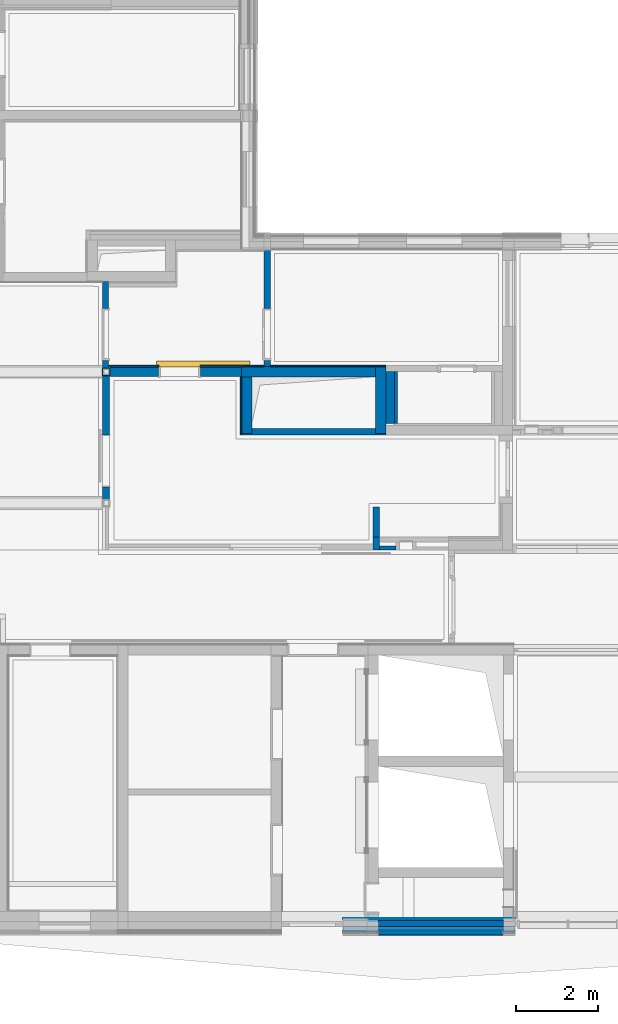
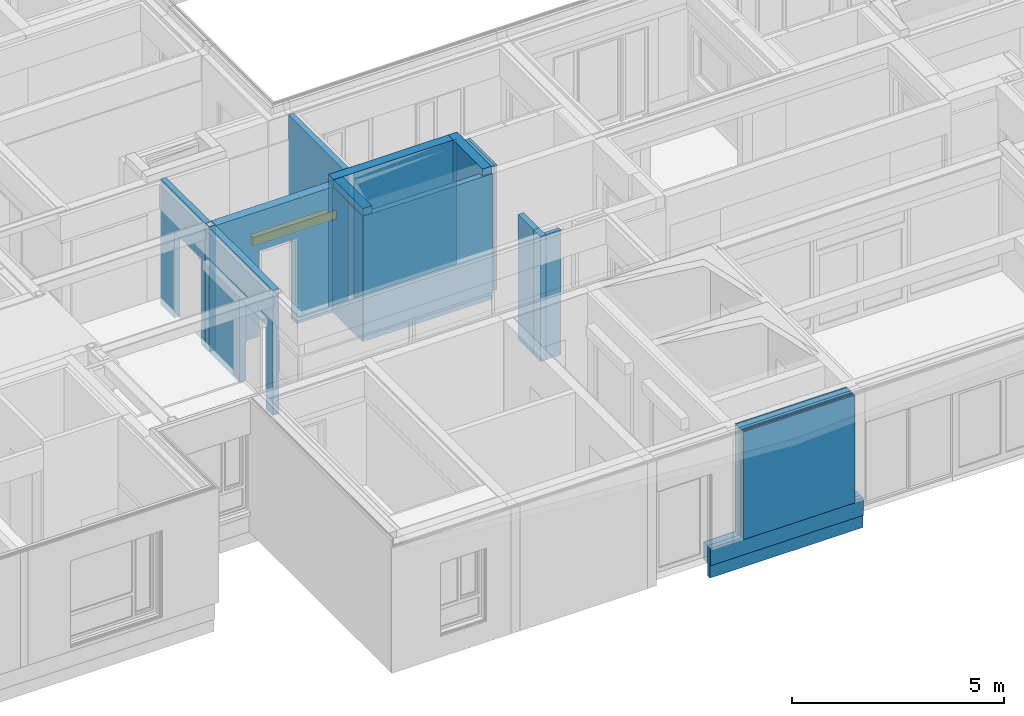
# One storey, part 24 of 207: 32 walls, 1 door, 5 openings.
"""IFC4 building model written with IfcOpenShell, lengths in metres."""

from ifc_helpers import new_model, entity, si_unit, converted_unit, derived_unit, frame, frame_2d, origin, origin_with_axes, place, context, subcontext, project, spatial, polyline, rectangle, outline, extrude, faceted_brep, source, transform, mapped, material, type_object, element, fill, save


model = new_model("IFC4")

# Units and contexts
model_context = context("Model", 3, precision=1e-05, world=origin())
body_context = subcontext(model_context, "Body", "Model", "MODEL_VIEW")
ifc_project = project(units=[si_unit("LENGTHUNIT", "METRE"), si_unit("AREAUNIT", "SQUARE_METRE"), si_unit("VOLUMEUNIT", "CUBIC_METRE"), si_unit("MASSUNIT", "GRAM", prefix="KILO"), converted_unit("PLANEANGLEUNIT", "DEGREE", entity("IfcPlaneAngleMeasure", 0.0174532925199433), si_unit("PLANEANGLEUNIT", "RADIAN"), dimensions=[0, 0, 0, 0, 0, 0, 0]), derived_unit("THERMALTRANSMITTANCEUNIT", [(si_unit("POWERUNIT", "WATT"), 1), (si_unit("THERMODYNAMICTEMPERATUREUNIT", "KELVIN"), -1), (si_unit("LENGTHUNIT", "METRE"), -2)]), derived_unit("VOLUMETRICFLOWRATEUNIT", [(si_unit("LENGTHUNIT", "METRE"), 3), (converted_unit("TIMEUNIT", "hour", entity("IfcTimeMeasure", 3600.0), si_unit("TIMEUNIT", "SECOND"), dimensions=[0, 0, 1, 0, 0, 0, 0]), -1), (si_unit("LENGTHUNIT", "METRE"), -1)])], contexts=[model_context])

# Site, building, storey
site_placement = place(None, origin())
site = spatial("IfcSite", under=ifc_project, at=site_placement, Name="Psychiatrie Neubau Wunstorf", CompositionType="ELEMENT")
building_placement = place(site_placement, origin())
building = spatial("IfcBuilding", under=site, at=building_placement, Name="Neubau H2 Stationsgebäude", CompositionType="ELEMENT")
storey_placement = place(building_placement, frame((0.0, 0.0, -0.2)))
storey = spatial("IfcBuildingStorey", under=building, at=storey_placement, Name="H2 Ebene 0", CompositionType="ELEMENT", Elevation=-0.2)

# Walls
ifc_material_1 = material(Name="WA-LB")
wall_1_placement = place(storey_placement, frame((50.3000000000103, -6.1210003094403, 0.5), z_axis=(0.0, 0.0, 1.0), x_axis=(-1.0, 0.0, 0.0)))
element("IfcWall", 1, at=wall_1_placement, inside=storey, material=ifc_material_1, context=body_context, shape_type="SweptSolid", body=[
    extrude(rectangle(XDim=3.0299951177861, YDim=0.036, at=frame_2d((1.51499755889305, 0.018), x_axis=(1.0, 0.0))), origin_with_axes(), (0.0, 0.0, 1.0), 3.1),
])
ifc_material_2 = material(Name="WA-HD")
wall_2_placement = place(storey_placement, frame((50.3000000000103, -6.1570003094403, 0.5), z_axis=(0.0, 0.0, 1.0), x_axis=(-1.0, 0.0, 0.0)))
element("IfcWall", 2, at=wall_2_placement, inside=storey, material=ifc_material_2, context=body_context, shape_type="SweptSolid", body=[
    extrude(rectangle(XDim=3.0299951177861, YDim=0.16, at=frame_2d((1.51499755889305, 0.08), x_axis=(1.0, 0.0))), origin_with_axes(), (0.0, 0.0, 1.0), 3.1),
])
ifc_material_3 = material(Name="WA-DL")
wall_3_placement = place(storey_placement, frame((50.3000000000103, -6.3170003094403, 0.5), z_axis=(0.0, 0.0, 1.0), x_axis=(-1.0, 0.0, 0.0)))
element("IfcWall", 3, at=wall_3_placement, inside=storey, material=ifc_material_3, context=body_context, shape_type="SweptSolid", body=[
    extrude(rectangle(XDim=3.0299951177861, YDim=0.08, at=frame_2d((1.51499755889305, 0.04), x_axis=(1.0, 0.0))), origin_with_axes(), (0.0, 0.0, 1.0), 3.1),
])
ifc_material_4 = material(Name="WA-TP")
wall_4_placement = place(storey_placement, frame((50.3000000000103, -6.3970003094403, 0.5), z_axis=(0.0, 0.0, 1.0), x_axis=(-1.0, 0.0, 0.0)))
element("IfcWall", 4, at=wall_4_placement, inside=storey, material=ifc_material_4, context=body_context, shape_type="SweptSolid", body=[
    extrude(rectangle(XDim=3.0299951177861, YDim=0.036, at=frame_2d((1.51499755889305, 0.018), x_axis=(1.0, 0.0))), origin_with_axes(), (0.0, 0.0, 1.0), 3.1),
])
ifc_material_5 = material(Name="WA-KL")
wall_5_placement = place(storey_placement, frame((50.3000000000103, -6.4330003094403, 0.5), z_axis=(0.0, 0.0, 1.0), x_axis=(-1.0, 0.0, 0.0)))
element("IfcWall", 5, at=wall_5_placement, inside=storey, material=ifc_material_5, context=body_context, shape_type="SweptSolid", body=[
    extrude(rectangle(XDim=3.0299951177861, YDim=0.024, at=frame_2d((1.51499755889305, 0.012), x_axis=(1.0, 0.0))), origin_with_axes(), (0.0, 0.0, 1.0), 3.1),
])
ifc_material_6 = material(Name="WA-TL")
wall_6_placement = place(storey_placement, frame((50.3000000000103, -6.4570003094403, 0.5), z_axis=(0.0, 0.0, 1.0), x_axis=(-1.0, 0.0, 0.0)))
element("IfcWall", 6, at=wall_6_placement, inside=storey, material=ifc_material_6, context=body_context, shape_type="SweptSolid", body=[
    extrude(rectangle(XDim=3.0299951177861, YDim=0.024, at=frame_2d((1.51499755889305, 0.012), x_axis=(1.0, 0.0))), origin_with_axes(), (0.0, 0.0, 1.0), 3.1),
])
ifc_material_7 = material(Name="WA-HS")
wall_7_placement = place(storey_placement, frame((50.3000000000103, -6.4810003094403, 0.5), z_axis=(0.0, 0.0, 1.0), x_axis=(-1.0, 0.0, 0.0)))
element("IfcWall", 7, at=wall_7_placement, inside=storey, material=ifc_material_7, context=body_context, shape_type="SweptSolid", body=[
    extrude(rectangle(XDim=3.0299951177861, YDim=0.042, at=frame_2d((1.51499755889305, 0.021), x_axis=(1.0, 0.0))), origin_with_axes(), (0.0, 0.0, 1.0), 3.1),
])
ifc_material_8 = material(Name="WA-LB")
wall_8_placement = place(storey_placement, frame((50.5799996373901, -6.1140003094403, 0.0), z_axis=(0.0, 0.0, 1.0), x_axis=(-1.0, 8.73680557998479e-16, 0.0)))
element("IfcWall", 8, at=wall_8_placement, inside=storey, material=ifc_material_8, context=body_context, shape_type="SweptSolid", body=[
    extrude(rectangle(XDim=4.16396905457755, YDim=0.021, at=frame_2d((2.08198452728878, 0.0105), x_axis=(1.0, 0.0))), origin_with_axes(), (0.0, 0.0, 1.0), 0.5),
])
ifc_material_9 = material(Name="WA-STB")
wall_9_placement = place(storey_placement, frame((50.5799996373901, -6.1350003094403, 0.0), z_axis=(0.0, 0.0, 1.0), x_axis=(-1.0, 8.73680557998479e-16, 0.0)))
element("IfcWall", 9, at=wall_9_placement, inside=storey, material=ifc_material_9, context=body_context, shape_type="SweptSolid", body=[
    extrude(rectangle(XDim=4.16396905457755, YDim=0.174999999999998, at=frame_2d((2.08198452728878, 0.0874999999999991), x_axis=(1.0, 0.0))), origin_with_axes(), (0.0, 0.0, 1.0), 0.5),
])
ifc_material_10 = material(Name="WA-DE")
wall_10_placement = place(storey_placement, frame((50.5799996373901, -6.3100003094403, -0.36), z_axis=(0.0, 0.0, 1.0), x_axis=(-1.0, 8.73680557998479e-16, 0.0)))
element("IfcWall", 10, at=wall_10_placement, inside=storey, material=ifc_material_10, context=body_context, shape_type="SweptSolid", body=[
    extrude(rectangle(XDim=4.16396905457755, YDim=0.12, at=frame_2d((2.08198452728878, 0.06), x_axis=(1.0, 0.0))), origin_with_axes(), (0.0, 0.0, 1.0), 0.86),
])
ifc_material_11 = material(Name="WA-LB")
wall_11_placement = place(storey_placement, frame((50.5799996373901, -6.4300003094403, 0.0), z_axis=(0.0, 0.0, 1.0), x_axis=(-1.0, 8.73680557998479e-16, 0.0)))
element("IfcWall", 11, at=wall_11_placement, inside=storey, material=ifc_material_11, context=body_context, shape_type="SweptSolid", body=[
    extrude(rectangle(XDim=4.16396905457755, YDim=0.015, at=frame_2d((2.08198452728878, 0.0075), x_axis=(1.0, 0.0))), origin_with_axes(), (0.0, 0.0, 1.0), 0.5),
])
ifc_material_12 = material(Name="WI-LB")
wall_12_placement = place(storey_placement, frame((43.9500000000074, 5.61750021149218, 0.0)))
element("IfcWall", 12, at=wall_12_placement, inside=storey, material=ifc_material_12, context=body_context, shape_type="SweptSolid", body=[
    extrude(outline(polyline([(0.0, 0.0), (3.5, 0.0), (3.5, 0.03), (3.25, 0.03), (3.25, 0.15), (0.25, 0.15), (0.25, 0.03), (0.0, 0.03), (0.0, 0.0)])), origin_with_axes(), (0.0, 0.0, 1.0), 3.6),
])
ifc_material_13 = material(Name="Installationsraum")
wall_13_placement = place(storey_placement, frame((47.45, 7.14999969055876, 0.0), z_axis=(0.0, 0.0, 1.0), x_axis=(5.91081608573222e-12, -1.0, 0.0)))
element("IfcWall", 13, at=wall_13_placement, inside=storey, material=ifc_material_13, context=body_context, shape_type="SweptSolid", body=[
    extrude(rectangle(XDim=1.26049947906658, YDim=0.21, at=frame_2d((0.63024973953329, 0.105), x_axis=(1.0, 0.0))), origin_with_axes(), (0.0, 0.0, 1.0), 3.6),
])
ifc_material_14 = material(Name="WI-VS")
wall_14_placement = place(storey_placement, frame((47.66, 7.14999969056, 0.0), z_axis=(0.0, 0.0, 1.0), x_axis=(5.91081608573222e-12, -1.0, 0.0)))
element("IfcWall", 14, at=wall_14_placement, inside=storey, material=ifc_material_14, context=body_context, shape_type="SweptSolid", body=[
    extrude(rectangle(XDim=1.26049947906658, YDim=0.075, at=frame_2d((0.63024973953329, 0.0375), x_axis=(1.0, 0.0))), origin_with_axes(), (0.0, 0.0, 1.0), 3.6),
])
ifc_material_15 = material(Name="WI-STB")
wall_15_placement = place(storey_placement, frame((43.9500000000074, 7.02499969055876, 0.0), z_axis=(0.0, 0.0, 1.0), x_axis=(0.0, -1.0, 0.0)))
element("IfcWall", 15, at=wall_15_placement, inside=storey, material=ifc_material_15, context=body_context, shape_type="SweptSolid", body=[
    extrude(rectangle(XDim=1.37749947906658, YDim=0.25, at=frame_2d((0.68874973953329, 0.125), x_axis=(1.0, 0.0))), origin_with_axes(), (0.0, 0.0, 1.0), 3.8),
])
ifc_material_16 = material(Name="WI-STB")
wall_16_placement = place(storey_placement, frame((43.9500000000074, 7.02499969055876, 0.0)))
element("IfcWall", 16, at=wall_16_placement, inside=storey, material=ifc_material_16, context=body_context, shape_type="SweptSolid", body=[
    extrude(rectangle(XDim=3.25, YDim=0.25, at=frame_2d((1.625, 0.125), x_axis=(1.0, 0.0))), origin_with_axes(), (0.0, 0.0, 1.0), 3.8),
])
ifc_material_17 = material(Name="WI-STB")
wall_17_placement = place(storey_placement, frame((47.2000000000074, 7.27499969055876, 0.0), z_axis=(0.0, 0.0, 1.0), x_axis=(0.0, -1.0, 0.0)))
element("IfcWall", 17, at=wall_17_placement, inside=storey, material=ifc_material_17, context=body_context, shape_type="SweptSolid", body=[
    extrude(rectangle(XDim=1.62749947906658, YDim=0.25, at=frame_2d((0.81374973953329, 0.125), x_axis=(1.0, 0.0))), origin_with_axes(), (0.0, 0.0, 1.0), 3.8),
])

# Wall, opening
ifc_material_18 = material(Name="WI-LB")
wall_18_placement = place(storey_placement, frame((44.65, 7.27499969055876, 0.0), z_axis=(0.0, 0.0, 1.0), x_axis=(0.0, 1.0, 0.0)))
wall_18 = element("IfcWall", 18, at=wall_18_placement, inside=storey, material=ifc_material_18, context=body_context, shape_type="SweptSolid", body=[
    extrude(rectangle(XDim=2.83900000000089, YDim=0.15, at=frame_2d((1.41950000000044, 0.075), x_axis=(1.0, 0.0))), origin_with_axes(), (0.0, 0.0, 1.0), 3.6),
])
opening_1_placement = place(wall_18_placement, frame((0.15, 0.0, 0.0), z_axis=(0.0, 1.0, 0.0), x_axis=(0.0, 0.0, 1.0)))
element("IfcOpeningElement", 19, at=opening_1_placement, cuts=wall_18, Name="Türöffnung", ObjectType="Opening", context=body_context, shape_type="SweptSolid", body=[
    extrude(outline(polyline([(2.46, 1.26), (2.46, 0.0), (0.0, 0.0), (0.0, 1.26), (2.46, 1.26)])), origin_with_axes(), (0.0, 0.0, 1.0), 0.15),
])

# Walls
ifc_material_19 = material(Name="WI-LB")
wall_19_placement = place(storey_placement, frame((43.9500000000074, 5.61750021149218, 0.0), z_axis=(0.0, 0.0, 1.0), x_axis=(0.0, 1.0, 0.0)))
element("IfcWall", 20, at=wall_19_placement, inside=storey, material=ifc_material_19, context=body_context, shape_type="SweptSolid", body=[
    extrude(rectangle(XDim=1.41049947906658, YDim=0.0299996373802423, at=frame_2d((0.70524973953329, 0.0149998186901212), x_axis=(1.0, 0.0))), origin_with_axes(), (0.0, 0.0, 1.0), 3.6),
])
ifc_material_20 = material(Name="WI-LB")
wall_20_placement = place(storey_placement, frame((43.9500000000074, 7.27499969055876, 0.0)))
element("IfcWall", 21, at=wall_20_placement, inside=storey, material=ifc_material_20, context=body_context, shape_type="SweptSolid", body=[
    extrude(rectangle(XDim=0.549999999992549, YDim=0.025, at=frame_2d((0.274999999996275, 0.0125), x_axis=(1.0, 0.0))), origin_with_axes(), (0.0, 0.0, 1.0), 3.6),
])
ifc_material_21 = material(Name="WI-LB")
wall_21_placement = place(storey_placement, frame((44.65, 7.27499969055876, 0.0)))
element("IfcWall", 22, at=wall_21_placement, inside=storey, material=ifc_material_21, context=body_context, shape_type="SweptSolid", body=[
    extrude(rectangle(XDim=2.80000000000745, YDim=0.025, at=frame_2d((1.40000000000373, 0.0125), x_axis=(1.0, 0.0))), origin_with_axes(), (0.0, 0.0, 1.0), 3.6),
])

# Wall, opening
ifc_material_22 = material(Name="WI-LB")
wall_22_placement = place(storey_placement, frame((40.5749975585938, 9.33499624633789, 0.0), z_axis=(0.0, 0.0, 1.0), x_axis=(0.0, -1.0, 0.0)))
wall_22 = element("IfcWall", 23, at=wall_22_placement, inside=storey, material=ifc_material_22, context=body_context, shape_type="SweptSolid", body=[
    extrude(rectangle(XDim=2.09849655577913, YDim=0.15, at=frame_2d((1.04924827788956, 0.075), x_axis=(1.0, 0.0))), origin_with_axes(), (0.0, 0.0, 1.0), 3.6),
])
opening_2_placement = place(wall_22_placement, frame((1.90999655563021, 0.149999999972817, 0.0), z_axis=(3.66223199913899e-12, -1.0, 0.0), x_axis=(0.0, 0.0, 1.0)))
element("IfcOpeningElement", 24, at=opening_2_placement, cuts=wall_22, Name="Türöffnung", ObjectType="Opening", context=body_context, shape_type="SweptSolid", body=[
    extrude(outline(polyline([(2.46, 1.26), (2.46, 0.0), (0.0, 0.0), (0.0, 1.26), (2.46, 1.26)])), origin_with_axes(), (0.0, 0.0, 1.0), 0.15),
])

ifc_material_23 = material(Name="WI-LB")
wall_23_placement = place(storey_placement, frame((43.9500000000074, 7.29999969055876, 0.0), z_axis=(0.0, 0.0, 1.0), x_axis=(-1.0, 0.0, 0.0)))
wall_23 = element("IfcWall", 25, at=wall_23_placement, inside=storey, material=ifc_material_23, context=body_context, shape_type="SweptSolid", body=[
    extrude(rectangle(XDim=3.2250024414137, YDim=0.04, at=frame_2d((1.61250122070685, 0.02), x_axis=(1.0, 0.0))), origin_with_axes(), (0.0, 0.0, 1.0), 2.9),
])
opening_3_placement = place(wall_23_placement, frame((1.0, 0.0, 0.0), z_axis=(0.0, 1.0, 0.0), x_axis=(0.0, 0.0, 1.0)))
element("IfcOpeningElement", 26, at=opening_3_placement, cuts=wall_23, Name="Türöffnung", ObjectType="Opening", context=body_context, shape_type="SweptSolid", body=[
    extrude(outline(polyline([(2.46, 1.01), (2.46, 0.0), (0.0, 0.0), (0.0, 1.01), (2.46, 1.01)])), origin_with_axes(), (0.0, 0.0, 1.0), 0.04),
])

# Wall, opening, door
ifc_material_24 = material(Name="WI-HW 60")
wall_24_placement = place(storey_placement, frame((43.9500000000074, 7.25999969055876, 0.0), z_axis=(0.0, 0.0, 1.0), x_axis=(-1.0, 0.0, 0.0)))
wall_24 = element("IfcWall", 27, at=wall_24_placement, inside=storey, material=ifc_material_24, context=body_context, shape_type="SweptSolid", body=[
    extrude(rectangle(XDim=3.1950024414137, YDim=0.232, at=frame_2d((1.59750122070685, 0.116), x_axis=(1.0, 0.0))), origin_with_axes(), (0.0, 0.0, 1.0), 3.6),
])
opening_4_placement = place(wall_24_placement, frame((1.0, 0.0, 0.0), z_axis=(0.0, 1.0, 0.0), x_axis=(0.0, 0.0, 1.0)))
opening_4 = element("IfcOpeningElement", 28, at=opening_4_placement, cuts=wall_24, Name="Türöffnung", ObjectType="Opening", context=body_context, shape_type="SweptSolid", body=[
    extrude(outline(polyline([(2.46, 1.01), (2.46, 0.0), (0.0, 0.0), (0.0, 1.01), (2.46, 1.01)])), origin_with_axes(), (0.0, 0.0, 1.0), 0.232),
])
door_type = type_object("IfcDoorType", Name="SMT", OperationType="NOTDEFINED", ParameterTakesPrecedence=False, PredefinedType="DOOR")
shared_shape = source(origin_with_axes(), body_context, "Body", "Brep", [
    faceted_brep([(0.0, 0.15, 0.0), (0.0, 0.0, 0.0), (2.27, 0.0, 0.0), (2.27, 0.15, 0.0), (0.0, 0.0, 0.25), (0.0, 0.15, 0.25), (2.27, 0.15, 0.25), (2.27, 0.0, 0.25)], [[[0, 1, 2, 3]], [[4, 5, 6, 7]], [[1, 0, 5, 4]], [[2, 1, 4, 7]], [[3, 2, 7, 6]], [[0, 3, 6, 5]]], orient=[[False], [False], [False], [False], [False], [False]]),
])
door_placement = place(opening_4_placement, frame((2.46, 1.06, 0.0), z_axis=(1.0, 0.0, 0.0), x_axis=(0.0, -1.0, 2.44929359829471e-16)))
door = element("IfcDoor", 29, at=door_placement, inside=storey, type_object=door_type, Name="SMT", OverallHeight=2.46, OverallWidth=1.01, context=body_context, shape_type="MappedRepresentation", body=[
    mapped(shared_shape, transform((0.0, 0.0, 0.0), x_axis=(1.0, 0.0, 0.0), y_axis=(0.0, 1.0, 0.0), z_axis=(0.0, 0.0, 1.0), scale=1.0)),
])
fill(opening_4, door)

# Walls
ifc_material_25 = material(Name="WI-LB")
wall_25_placement = place(storey_placement, frame((47.7013707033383, 2.91749969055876, 0.0), z_axis=(0.0, 0.0, 1.0), x_axis=(-1.0, 0.0, 0.0)))
element("IfcWall", 30, at=wall_25_placement, inside=storey, material=ifc_material_25, context=body_context, shape_type="SweptSolid", body=[
    extrude(rectangle(XDim=0.408458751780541, YDim=0.1, at=frame_2d((0.204229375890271, 0.05), x_axis=(1.0, 0.0))), origin_with_axes(), (0.0, 0.0, 1.0), 3.6),
])
ifc_material_26 = material(Name="WI-RIR")
wall_26_placement = place(storey_placement, frame((40.7549975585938, 7.07599009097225, 0.0), z_axis=(0.0, 0.0, 1.0), x_axis=(-1.0, 0.0, 0.0)))
element("IfcWall", 31, at=wall_26_placement, inside=storey, material=ifc_material_26, context=body_context, shape_type="SweptSolid", body=[
    extrude(outline(polyline([(-0.16, -0.02), (0.0, -0.02), (0.0, -0.000508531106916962), (-0.155152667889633, -0.000500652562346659), (-0.155152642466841, 0.0), (-0.16, 0.0), (-0.16, -0.02)])), frame((0.16, 0.02, 0.0), z_axis=(0.0, 0.0, 1.0), x_axis=(1.0, 0.0, 0.0)), (0.0, 0.0, 1.0), 3.6),
])
ifc_material_27 = material(Name="WI-RIR")
wall_27_placement = place(storey_placement, frame((40.5749975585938, 7.21649969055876, 0.0)))
element("IfcWall", 32, at=wall_27_placement, inside=storey, material=ifc_material_27, context=body_context, shape_type="SweptSolid", body=[
    extrude(rectangle(XDim=0.16, YDim=0.02, at=frame_2d((0.08, 0.01), x_axis=(1.0, 0.0))), origin_with_axes(), (0.0, 0.0, 1.0), 3.6),
])
ifc_material_28 = material(Name="WI-RIR")
wall_28_placement = place(storey_placement, frame((40.5949975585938, 7.05649862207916, 0.0), z_axis=(0.0, 0.0, 1.0), x_axis=(0.0, 1.0, 0.0)))
element("IfcWall", 33, at=wall_28_placement, inside=storey, material=ifc_material_28, context=body_context, shape_type="SweptSolid", body=[
    extrude(outline(polyline([(0.0, -0.02), (0.160001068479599, -0.02), (0.160001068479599, 0.0), (1.01558609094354e-06, 0.0), (0.0, -0.02)])), frame((0.0, 0.02, 0.0), z_axis=(0.0, 0.0, 1.0), x_axis=(1.0, 0.0, 0.0)), (0.0, 0.0, 1.0), 3.6),
])
ifc_material_29 = material(Name="WI-RIR")
wall_29_placement = place(storey_placement, frame((40.7349975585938, 7.23649969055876, 0.0), z_axis=(0.0, 0.0, 1.0), x_axis=(0.0, -1.0, 0.0)))
element("IfcWall", 34, at=wall_29_placement, inside=storey, material=ifc_material_29, context=body_context, shape_type="SweptSolid", body=[
    extrude(rectangle(XDim=0.160509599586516, YDim=0.02, at=frame_2d((0.0802547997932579, 0.01), x_axis=(1.0, 0.0))), origin_with_axes(), (0.0, 0.0, 1.0), 3.6),
])

# Wall, opening
ifc_material_30 = material(Name="WI-LB")
wall_30_placement = place(storey_placement, frame((40.575150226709, 7.05649962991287, 0.0), z_axis=(0.0, 0.0, 1.0), x_axis=(-5.07793044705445e-05, -0.999999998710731, 0.0)))
wall_30 = element("IfcWall", 35, at=wall_30_placement, inside=storey, material=ifc_material_30, context=body_context, shape_type="SweptSolid", body=[
    extrude(rectangle(XDim=3.00650268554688, YDim=0.174999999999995, at=frame_2d((1.50325134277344, 0.0874999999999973), x_axis=(1.0, 0.0))), origin_with_axes(), (0.0, 0.0, 1.0), 3.6),
])
opening_5_placement = place(wall_30_placement, frame((2.69899994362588, 0.175000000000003, 0.0), z_axis=(2.59855629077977e-15, -1.0, 0.0), x_axis=(0.0, 0.0, 1.0)))
element("IfcOpeningElement", 36, at=opening_5_placement, cuts=wall_30, Name="Türöffnung", ObjectType="Opening", context=body_context, shape_type="SweptSolid", body=[
    extrude(outline(polyline([(2.41, 1.26), (2.41, 0.0), (0.0, 0.0), (0.0, 1.26), (2.41, 1.26)])), origin_with_axes(), (0.0, 0.0, 1.0), 0.175000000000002),
])

# Walls
ifc_material_31 = material(Name="WI-LB")
wall_31_placement = place(storey_placement, frame((47.2929119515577, 2.8174996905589, 0.0), z_axis=(0.0, 0.0, 1.0), x_axis=(-3.35813428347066e-12, 1.0, 0.0)))
element("IfcWall", 37, at=wall_31_placement, inside=storey, material=ifc_material_31, context=body_context, shape_type="SweptSolid", body=[
    extrude(rectangle(XDim=0.175165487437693, YDim=0.150000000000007, at=frame_2d((0.0875827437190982, 0.0750000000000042), x_axis=(1.0, 6.41301046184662e-15))), frame((0.149834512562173, 0.0, 0.0), z_axis=(0.0, 0.0, 1.0), x_axis=(1.0, 0.0, 0.0)), (0.0, 0.0, 1.0), 3.6),
    extrude(outline(polyline([(0.149830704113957, -0.150000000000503), (0.149834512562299, 0.0), (0.0, 0.0), (0.0, -0.150000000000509), (0.149830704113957, -0.150000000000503)])), frame((0.0, 0.150000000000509, 0.0), z_axis=(0.0, 0.0, 1.0), x_axis=(1.0, 0.0, 0.0)), (0.0, 0.0, 1.0), 3.6),
])
ifc_material_32 = material(Name="WI-LB")
wall_32_placement = place(storey_placement, frame((47.2929119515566, 3.14249969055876, 0.0), z_axis=(0.0, 0.0, 1.0), x_axis=(-3.38283797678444e-12, 1.0, 0.0)))
element("IfcWall", 38, at=wall_32_placement, inside=storey, material=ifc_material_32, context=body_context, shape_type="SweptSolid", body=[
    extrude(rectangle(XDim=0.724834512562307, YDim=0.149999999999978, at=frame_2d((0.362417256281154, 0.0749999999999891), x_axis=(1.0, 0.0))), origin_with_axes(), (0.0, 0.0, 1.0), 3.6),
])

save(model, "model.ifc")
